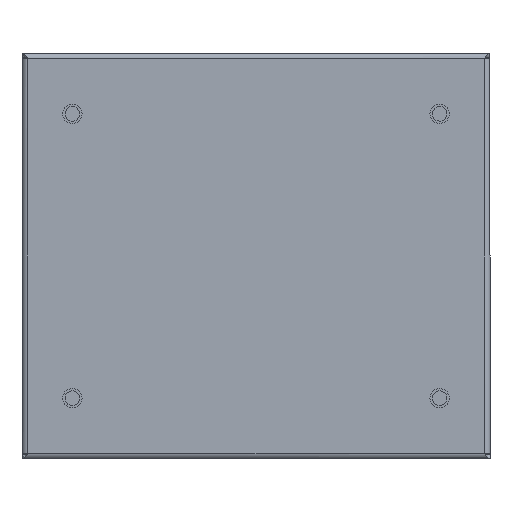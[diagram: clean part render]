
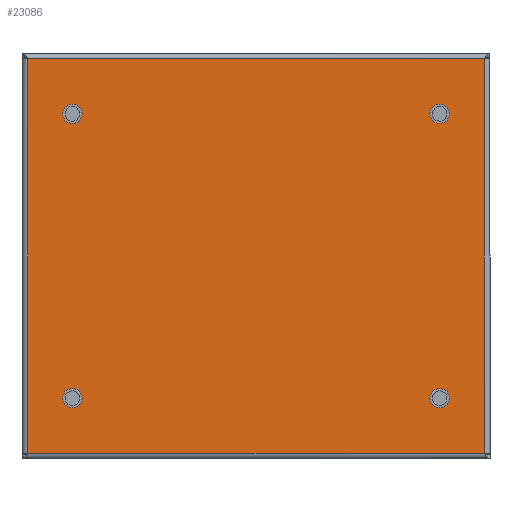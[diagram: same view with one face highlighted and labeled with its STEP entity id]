
A CAD part, front view. The second image highlights one B-rep face of the part: STEP entity #23086.
In plain terms, the highlighted planar face has unit normal (0, -1, 0) as drawn and (0, 0, 1) by its records, which use the part's own axes.
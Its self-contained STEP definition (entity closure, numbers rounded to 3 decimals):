
#22426=CARTESIAN_POINT(' ',(66.5,-51.5,0.));
#22431=DIRECTION(' ',(0.,0.,-1.));
#22436=DIRECTION(' ',(1.,0.,0.));
#22441=AXIS2_PLACEMENT_3D(' ',#22426,#22431,#22436);
#22446=CIRCLE('',#22441,3.5);
#22451=CARTESIAN_POINT(' ',(70.,-51.5,0.));
#22452=VERTEX_POINT(' ',#22451);
#22456=CARTESIAN_POINT(' ',(63.,-51.5,0.));
#22457=VERTEX_POINT(' ',#22456);
#22461=EDGE_CURVE(' ',#22452,#22457,#22446,.T.);
#22591=DIRECTION(' ',(-0.,-0.,1.));
#22596=CARTESIAN_POINT(' ',(82.65,-71.4,0.));
#22601=DIRECTION(' ',(0.,1.,0.));
#22606=AXIS2_PLACEMENT_3D(' ',#22596,#22591,#22601);
#22611=PLANE('NONE',#22606);
#22616=CARTESIAN_POINT(' ',(82.65,-71.4,0.));
#22621=DIRECTION(' ',(0.,1.,0.));
#22626=VECTOR(' ',#22621,1.);
#22631=LINE('',#22616,#22626);
#22636=CARTESIAN_POINT(' ',(82.65,-71.4,0.));
#22637=VERTEX_POINT(' ',#22636);
#22641=CARTESIAN_POINT(' ',(82.65,71.4,0.));
#22642=VERTEX_POINT(' ',#22641);
#22646=EDGE_CURVE(' ',#22637,#22642,#22631,.T.);
#22651=ORIENTED_EDGE(' ',*,*,#22646,.T.);
#22656=CARTESIAN_POINT(' ',(82.65,71.4,0.));
#22661=DIRECTION(' ',(-1.,0.,0.));
#22666=VECTOR(' ',#22661,1.);
#22671=LINE('',#22656,#22666);
#22676=CARTESIAN_POINT(' ',(-82.65,71.4,0.));
#22677=VERTEX_POINT(' ',#22676);
#22681=EDGE_CURVE(' ',#22642,#22677,#22671,.T.);
#22686=ORIENTED_EDGE(' ',*,*,#22681,.T.);
#22691=CARTESIAN_POINT(' ',(-82.65,71.4,0.));
#22696=DIRECTION(' ',(0.,-1.,0.));
#22701=VECTOR(' ',#22696,1.);
#22706=LINE('',#22691,#22701);
#22711=CARTESIAN_POINT(' ',(-82.65,-71.4,0.));
#22712=VERTEX_POINT(' ',#22711);
#22716=EDGE_CURVE(' ',#22677,#22712,#22706,.T.);
#22721=ORIENTED_EDGE(' ',*,*,#22716,.T.);
#22726=CARTESIAN_POINT(' ',(-82.65,-71.4,0.));
#22731=DIRECTION(' ',(1.,0.,0.));
#22736=VECTOR(' ',#22731,1.);
#22741=LINE('',#22726,#22736);
#22746=EDGE_CURVE(' ',#22712,#22637,#22741,.T.);
#22751=ORIENTED_EDGE(' ',*,*,#22746,.T.);
#22756=EDGE_LOOP(' ',(#22651,#22686,#22721,#22751));
#22761=FACE_OUTER_BOUND(' ',#22756,.T.);
#22766=CARTESIAN_POINT(' ',(66.5,-51.5,0.));
#22771=DIRECTION(' ',(0.,-0.,-1.));
#22776=DIRECTION(' ',(-1.,0.,0.));
#22781=AXIS2_PLACEMENT_3D(' ',#22766,#22771,#22776);
#22786=CIRCLE('',#22781,3.5);
#22791=EDGE_CURVE(' ',#22457,#22452,#22786,.T.);
#22796=ORIENTED_EDGE(' ',*,*,#22791,.T.);
#22801=ORIENTED_EDGE(' ',*,*,#22461,.T.);
#22806=EDGE_LOOP(' ',(#22796,#22801));
#22811=FACE_BOUND(' ',#22806,.T.);
#22816=CARTESIAN_POINT(' ',(-66.5,-51.5,0.));
#22821=DIRECTION(' ',(0.,-0.,-1.));
#22826=DIRECTION(' ',(-1.,0.,0.));
#22831=AXIS2_PLACEMENT_3D(' ',#22816,#22821,#22826);
#22836=CIRCLE('',#22831,3.5);
#22841=CARTESIAN_POINT(' ',(-70.,-51.5,0.));
#22842=VERTEX_POINT(' ',#22841);
#22846=CARTESIAN_POINT(' ',(-63.,-51.5,0.));
#22847=VERTEX_POINT(' ',#22846);
#22851=EDGE_CURVE(' ',#22842,#22847,#22836,.T.);
#22856=ORIENTED_EDGE(' ',*,*,#22851,.T.);
#22861=CARTESIAN_POINT(' ',(-66.5,-51.5,0.));
#22866=DIRECTION(' ',(0.,0.,-1.));
#22871=DIRECTION(' ',(1.,0.,0.));
#22876=AXIS2_PLACEMENT_3D(' ',#22861,#22866,#22871);
#22881=CIRCLE('',#22876,3.5);
#22886=EDGE_CURVE(' ',#22847,#22842,#22881,.T.);
#22891=ORIENTED_EDGE(' ',*,*,#22886,.T.);
#22896=EDGE_LOOP(' ',(#22856,#22891));
#22901=FACE_BOUND(' ',#22896,.T.);
#22906=CARTESIAN_POINT(' ',(66.5,51.5,0.));
#22911=DIRECTION(' ',(0.,-0.,-1.));
#22916=DIRECTION(' ',(-1.,0.,0.));
#22921=AXIS2_PLACEMENT_3D(' ',#22906,#22911,#22916);
#22926=CIRCLE('',#22921,3.5);
#22931=CARTESIAN_POINT(' ',(63.,51.5,0.));
#22932=VERTEX_POINT(' ',#22931);
#22936=CARTESIAN_POINT(' ',(70.,51.5,0.));
#22937=VERTEX_POINT(' ',#22936);
#22941=EDGE_CURVE(' ',#22932,#22937,#22926,.T.);
#22946=ORIENTED_EDGE(' ',*,*,#22941,.T.);
#22951=CARTESIAN_POINT(' ',(66.5,51.5,0.));
#22956=DIRECTION(' ',(0.,0.,-1.));
#22961=DIRECTION(' ',(1.,0.,0.));
#22966=AXIS2_PLACEMENT_3D(' ',#22951,#22956,#22961);
#22971=CIRCLE('',#22966,3.5);
#22976=EDGE_CURVE(' ',#22937,#22932,#22971,.T.);
#22981=ORIENTED_EDGE(' ',*,*,#22976,.T.);
#22986=EDGE_LOOP(' ',(#22946,#22981));
#22991=FACE_BOUND(' ',#22986,.T.);
#22996=CARTESIAN_POINT(' ',(-66.5,51.5,0.));
#23001=DIRECTION(' ',(0.,-0.,-1.));
#23006=DIRECTION(' ',(-1.,0.,0.));
#23011=AXIS2_PLACEMENT_3D(' ',#22996,#23001,#23006);
#23016=CIRCLE('',#23011,3.5);
#23021=CARTESIAN_POINT(' ',(-70.,51.5,0.));
#23022=VERTEX_POINT(' ',#23021);
#23026=CARTESIAN_POINT(' ',(-63.,51.5,0.));
#23027=VERTEX_POINT(' ',#23026);
#23031=EDGE_CURVE(' ',#23022,#23027,#23016,.T.);
#23036=ORIENTED_EDGE(' ',*,*,#23031,.T.);
#23041=CARTESIAN_POINT(' ',(-66.5,51.5,0.));
#23046=DIRECTION(' ',(0.,0.,-1.));
#23051=DIRECTION(' ',(1.,0.,0.));
#23056=AXIS2_PLACEMENT_3D(' ',#23041,#23046,#23051);
#23061=CIRCLE('',#23056,3.5);
#23066=EDGE_CURVE(' ',#23027,#23022,#23061,.T.);
#23071=ORIENTED_EDGE(' ',*,*,#23066,.T.);
#23076=EDGE_LOOP(' ',(#23036,#23071));
#23081=FACE_BOUND(' ',#23076,.T.);
#23086=ADVANCED_FACE('NONE',(#22761,#22811,#22901,#22991,#23081),#22611,.T.);
